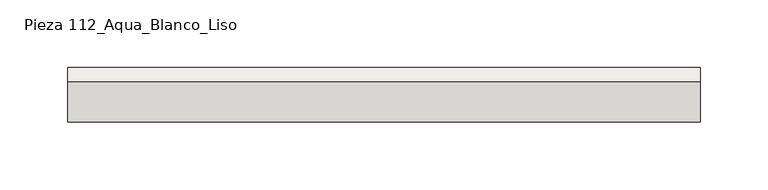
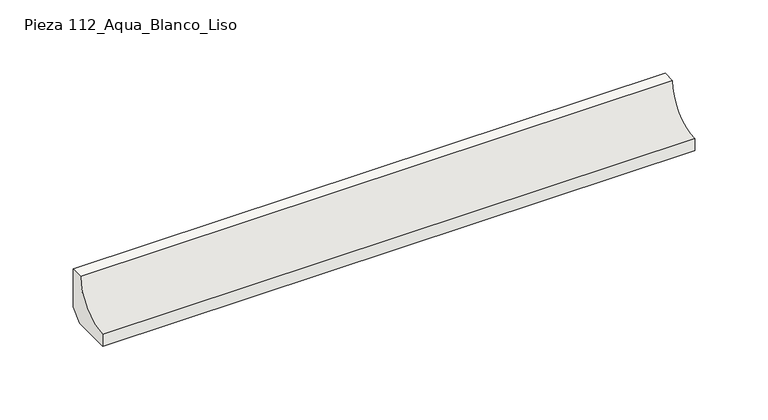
"""IFC4 building model written with IfcOpenShell, lengths in millimetres: slab geometry, ROSA GRES_112 : Pieza 112_Aqua_Blanco_Liso."""

from ifc_helpers import new_model, si_unit, point, frame, frame_2d, origin, place, context, project, spatial, polyline, circle_curve, trimmed, segment, composite_curve, outline, extrude, source, transform, mapped, element, save


def pieza_112_aqua_blanco_liso_853ec705(model_context):
    return source(origin(), model_context, "Body", "SweptSolid", [
        extrude(outline(composite_curve([segment(polyline([(9.9734114, 8.7114978), (1.2619137, 0.0), (-30.0265886, 0.0), (-30.0265886, 9.9734114)]), True, "CONTINUOUS"), segment(trimmed(circle_curve(frame_2d((-30.0221432, 39.9955547)), 30.0221435), [point((-30.0265886, 9.9734114))], [point((0.0, 40.0))], True, "CARTESIAN"), True, "CONTINUOUS"), segment(polyline([(0.0, 40.0), (9.9734114, 40.0), (9.9734114, 8.7114978)]), True, "CONTINUOUS")], self_intersect=False)), frame((0.0, 0.0, 0.0), z_axis=(1.0, 0.0, 0.0), x_axis=(0.0, 1.0, 0.0)), (0.0, 0.0, 1.0), 465.0322182),
    ])


if __name__ == "__main__":
    model = new_model("IFC4")
    model_context = context("Model", 3, world=origin())
    ifc_project = project(units=[si_unit("LENGTHUNIT", "METRE", prefix="MILLI")], contexts=[model_context])
    site = spatial("IfcSite", under=ifc_project)
    building = spatial("IfcBuilding", under=site)
    placement = place(None, origin())
    pieza_112_aqua_blanco_liso_shape = pieza_112_aqua_blanco_liso_853ec705(model_context)
    element("IfcSlab", 1, ObjectType="ROSA GRES_112 : Pieza 112_Aqua_Blanco_Liso", at=placement, inside=building, context=model_context, shape_type="MappedRepresentation", body=[
        mapped(pieza_112_aqua_blanco_liso_shape, transform((0.0, 0.0, 0.0), x_axis=(1.0, 0.0, 0.0), y_axis=(0.0, 1.0, 0.0), z_axis=(0.0, 0.0, 1.0))),
    ])
    save(model, "model.ifc")
